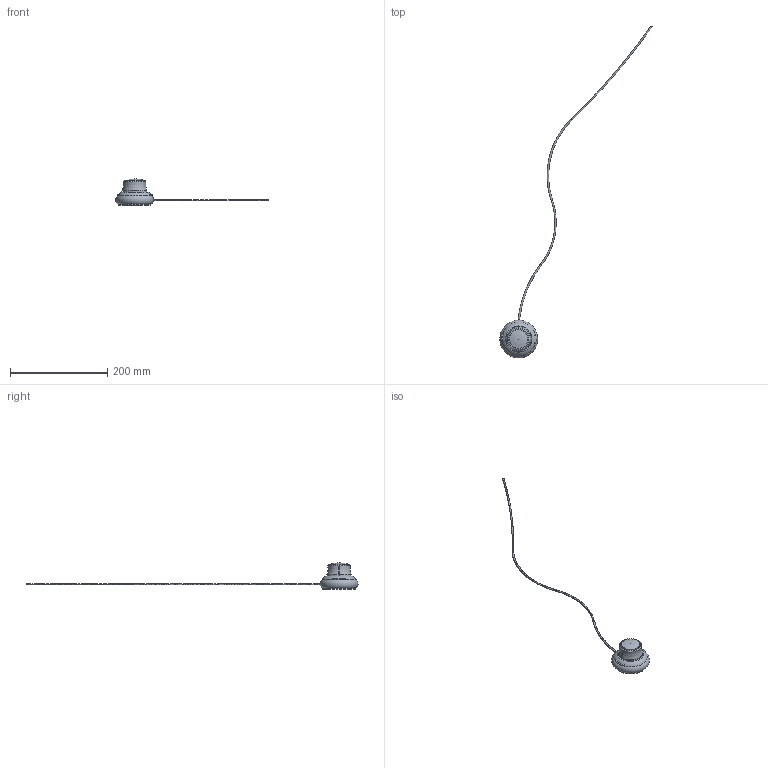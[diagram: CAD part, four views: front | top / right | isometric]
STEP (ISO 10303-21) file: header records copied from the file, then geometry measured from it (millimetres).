
FILE_DESCRIPTION(/* description */ ('3Dconnexion'),/* implementation_level */ '2;1');
FILE_NAME(/* name */ 'C:\Users\Fujimoto-s\OneDrive\Inventor\WorkSpace\\X2\305D306E4ED6\X0\\ホームページ用\\X2\30C030A630F330ED30FC30C97D206750\X0\\ＰＣ関係\\X2\30A230C330D730ED30FC30C97528\X0\\３Ｄマウス\３Ｄマウス.stp',/* time_stamp */ '2024-08-13T16:43:32+09:00',/* author */ ('Fujimoto-s'),/* organization */ (''),/* preprocessor_version */ 'ST-DEVELOPER v15.2',/* originating_system */ 'Autodesk Inventor 2014',/* authorisation */ '');
FILE_SCHEMA (('AUTOMOTIVE_DESIGN { 1 0 10303 214 3 1 1 }'));
Length unit declared in the file: millimetre
Products named in the file (1): ３Ｄマウス
Bounding box: 314.06 x 684.49 x 54 mm (x, y, z)
Volume: 156654.9 mm3; surface area: 23188.6 mm2
Topology: 1 solids, 1 shells, 24 faces, 51 edges, 32 vertices
Faces by surface type: plane 8, torus 6, cylinder 5, bspline 4, sphere 1
Full cylindrical faces by diameter (mm): 3 x1, 38 x1, 50 x1, 67 x1
Entity records: 903 total; most frequent: CARTESIAN_POINT 397, DIRECTION 102, ORIENTED_EDGE 76, AXIS2_PLACEMENT_3D 48, EDGE_CURVE 38, EDGE_LOOP 36, VERTEX_POINT 28, CIRCLE 27
